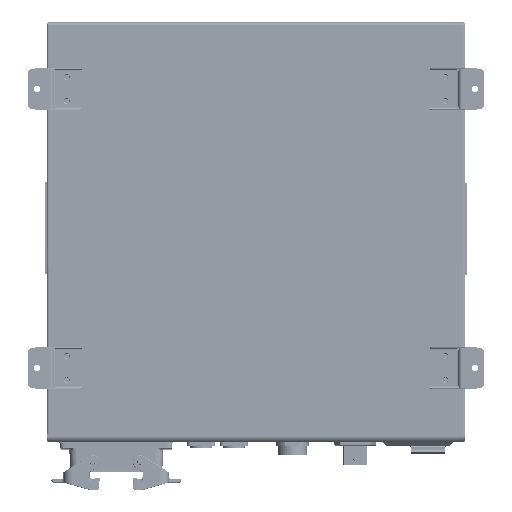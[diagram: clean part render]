
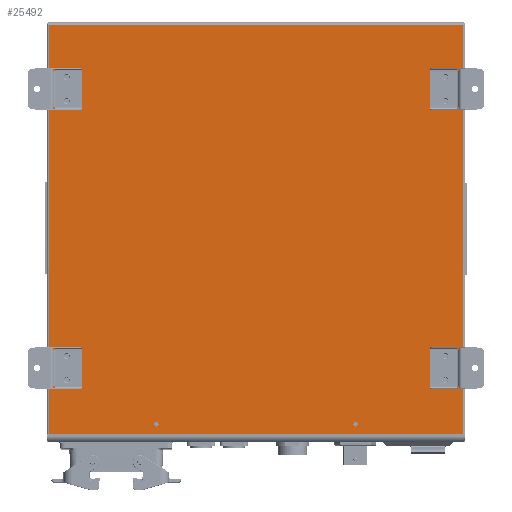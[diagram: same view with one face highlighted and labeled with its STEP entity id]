
A CAD part, left-side view. The second image highlights one B-rep face of the part: STEP entity #25492.
In plain terms, the highlighted planar face has unit normal (-1, 0, 0).
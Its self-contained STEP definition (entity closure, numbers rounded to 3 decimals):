
#5948=FACE_BOUND('',#76878,.T.);
#5949=FACE_BOUND('',#76879,.T.);
#5950=FACE_BOUND('',#76880,.T.);
#5951=FACE_BOUND('',#76881,.T.);
#5952=FACE_BOUND('',#76882,.T.);
#5953=FACE_BOUND('',#76883,.T.);
#5954=FACE_BOUND('',#76884,.T.);
#5955=FACE_BOUND('',#76885,.T.);
#5956=FACE_BOUND('',#76886,.T.);
#5957=FACE_BOUND('',#76887,.T.);
#5958=FACE_BOUND('',#76888,.T.);
#15673=CIRCLE('',#384269,2.25);
#15676=CIRCLE('',#384273,2.25);
#15677=CIRCLE('',#384275,4.375);
#15679=CIRCLE('',#384278,4.375);
#15682=CIRCLE('',#384282,4.375);
#15684=CIRCLE('',#384285,4.375);
#15685=CIRCLE('',#384287,4.375);
#15687=CIRCLE('',#384290,4.375);
#15690=CIRCLE('',#384294,4.375);
#15692=CIRCLE('',#384297,4.375);
#25492=ADVANCED_FACE('\X2\96F64EF651E04F554F53\X0\',(#5948,#5949,#5950,
#5951,#5952,#5953,#5954,#5955,#5956,#5957,#5958),#43363,.F.);
#43363=PLANE('',#384299);
#76878=EDGE_LOOP('',(#112721,#112722,#112723,#112724));
#76879=EDGE_LOOP('',(#112725));
#76880=EDGE_LOOP('',(#112726));
#76881=EDGE_LOOP('',(#112727));
#76882=EDGE_LOOP('',(#112728));
#76883=EDGE_LOOP('',(#112729));
#76884=EDGE_LOOP('',(#112730));
#76885=EDGE_LOOP('',(#112731));
#76886=EDGE_LOOP('',(#112732));
#76887=EDGE_LOOP('',(#112733));
#76888=EDGE_LOOP('',(#112734));
#112721=ORIENTED_EDGE('',*,*,#246560,.T.);
#112722=ORIENTED_EDGE('',*,*,#246562,.T.);
#112723=ORIENTED_EDGE('',*,*,#246451,.F.);
#112724=ORIENTED_EDGE('',*,*,#246559,.T.);
#112725=ORIENTED_EDGE('',*,*,#246567,.T.);
#112726=ORIENTED_EDGE('',*,*,#246564,.T.);
#112727=ORIENTED_EDGE('',*,*,#246568,.F.);
#112728=ORIENTED_EDGE('',*,*,#246570,.F.);
#112729=ORIENTED_EDGE('',*,*,#246573,.F.);
#112730=ORIENTED_EDGE('',*,*,#246575,.F.);
#112731=ORIENTED_EDGE('',*,*,#246576,.F.);
#112732=ORIENTED_EDGE('',*,*,#246578,.F.);
#112733=ORIENTED_EDGE('',*,*,#246581,.F.);
#112734=ORIENTED_EDGE('',*,*,#246583,.F.);
#208176=VERTEX_POINT('',#523641);
#208177=VERTEX_POINT('',#523643);
#208248=VERTEX_POINT('',#523856);
#208249=VERTEX_POINT('',#523860);
#208250=VERTEX_POINT('',#523868);
#208253=VERTEX_POINT('',#523875);
#208254=VERTEX_POINT('',#523878);
#208256=VERTEX_POINT('',#523883);
#208259=VERTEX_POINT('',#523890);
#208261=VERTEX_POINT('',#523895);
#208262=VERTEX_POINT('',#523898);
#208264=VERTEX_POINT('',#523903);
#208267=VERTEX_POINT('',#523910);
#208269=VERTEX_POINT('',#523915);
#246451=EDGE_CURVE('',#208176,#208177,#297940,.T.);
#246559=EDGE_CURVE('LINE',#208176,#208248,#297995,.T.);
#246560=EDGE_CURVE('LINE',#208248,#208249,#297996,.T.);
#246562=EDGE_CURVE('LINE',#208249,#208177,#297997,.T.);
#246564=EDGE_CURVE('GENERATED CIRCLE',#208250,#208250,#15673,.T.);
#246567=EDGE_CURVE('GENERATED CIRCLE',#208253,#208253,#15676,.T.);
#246568=EDGE_CURVE('GENERATED CIRCLE',#208254,#208254,#15677,.T.);
#246570=EDGE_CURVE('GENERATED CIRCLE',#208256,#208256,#15679,.T.);
#246573=EDGE_CURVE('GENERATED CIRCLE',#208259,#208259,#15682,.T.);
#246575=EDGE_CURVE('GENERATED CIRCLE',#208261,#208261,#15684,.T.);
#246576=EDGE_CURVE('GENERATED CIRCLE',#208262,#208262,#15685,.T.);
#246578=EDGE_CURVE('GENERATED CIRCLE',#208264,#208264,#15687,.T.);
#246581=EDGE_CURVE('GENERATED CIRCLE',#208267,#208267,#15690,.T.);
#246583=EDGE_CURVE('GENERATED CIRCLE',#208269,#208269,#15692,.T.);
#297940=LINE('',#523642,#341818);
#297995=LINE('',#523857,#341873);
#297996=LINE('',#523859,#341874);
#297997=LINE('',#523863,#341875);
#341818=VECTOR('',#423201,1.);
#341873=VECTOR('',#423432,1.);
#341874=VECTOR('',#423435,1.);
#341875=VECTOR('',#423440,1.);
#384269=AXIS2_PLACEMENT_3D('',#523867,#423446,#423447);
#384273=AXIS2_PLACEMENT_3D('',#523874,#423454,#423455);
#384275=AXIS2_PLACEMENT_3D('',#523877,#423458,#423459);
#384278=AXIS2_PLACEMENT_3D('',#523882,#423464,#423465);
#384282=AXIS2_PLACEMENT_3D('',#523889,#423472,#423473);
#384285=AXIS2_PLACEMENT_3D('',#523894,#423478,#423479);
#384287=AXIS2_PLACEMENT_3D('',#523897,#423482,#423483);
#384290=AXIS2_PLACEMENT_3D('',#523902,#423488,#423489);
#384294=AXIS2_PLACEMENT_3D('',#523909,#423496,#423497);
#384297=AXIS2_PLACEMENT_3D('',#523914,#423502,#423503);
#384299=AXIS2_PLACEMENT_3D('',#523917,#423506,#423507);
#423201=DIRECTION('',(0.,1.,0.));
#423432=DIRECTION('',(0.,0.,1.));
#423435=DIRECTION('',(0.,1.,0.));
#423440=DIRECTION('',(0.,0.,-1.));
#423446=DIRECTION('',(1.,0.,0.));
#423447=DIRECTION('',(0.,0.,-1.));
#423454=DIRECTION('',(1.,0.,0.));
#423455=DIRECTION('',(0.,0.,-1.));
#423458=DIRECTION('',(-1.,0.,0.));
#423459=DIRECTION('',(0.,0.,-1.));
#423464=DIRECTION('',(-1.,0.,0.));
#423465=DIRECTION('',(0.,0.,-1.));
#423472=DIRECTION('',(-1.,0.,0.));
#423473=DIRECTION('',(0.,0.,-1.));
#423478=DIRECTION('',(-1.,0.,0.));
#423479=DIRECTION('',(0.,0.,-1.));
#423482=DIRECTION('',(-1.,0.,0.));
#423483=DIRECTION('',(0.,0.,-1.));
#423488=DIRECTION('',(-1.,0.,0.));
#423489=DIRECTION('',(0.,0.,-1.));
#423496=DIRECTION('',(-1.,0.,0.));
#423497=DIRECTION('',(0.,0.,-1.));
#423502=DIRECTION('',(-1.,0.,0.));
#423503=DIRECTION('',(0.,0.,-1.));
#423506=DIRECTION('',(1.,0.,0.));
#423507=DIRECTION('',(0.,1.,0.));
#523641=CARTESIAN_POINT('',(-248.02,-809.9,-270.606));
#523642=CARTESIAN_POINT('',(-248.02,-809.9,-270.606));
#523643=CARTESIAN_POINT('',(-248.02,-394.1,-270.606));
#523856=CARTESIAN_POINT('',(-248.02,-809.9,139.494));
#523857=CARTESIAN_POINT('',(-248.02,-809.9,-67.906));
#523859=CARTESIAN_POINT('',(-248.02,-602.,139.494));
#523860=CARTESIAN_POINT('',(-248.02,-394.1,139.494));
#523863=CARTESIAN_POINT('',(-248.02,-394.1,-67.906));
#523867=CARTESIAN_POINT('',(-248.02,-702.,-261.047));
#523868=CARTESIAN_POINT('',(-248.02,-702.,-263.297));
#523874=CARTESIAN_POINT('',(-248.02,-502.,-261.047));
#523875=CARTESIAN_POINT('',(-248.02,-502.,-263.297));
#523877=CARTESIAN_POINT('',(-248.02,-412.,-192.506));
#523878=CARTESIAN_POINT('',(-248.02,-412.,-196.881));
#523882=CARTESIAN_POINT('',(-248.02,-412.,-216.506));
#523883=CARTESIAN_POINT('',(-248.02,-412.,-220.881));
#523889=CARTESIAN_POINT('',(-248.02,-792.,-192.506));
#523890=CARTESIAN_POINT('',(-248.02,-792.,-196.881));
#523894=CARTESIAN_POINT('',(-248.02,-792.,-216.506));
#523895=CARTESIAN_POINT('',(-248.02,-792.,-220.881));
#523897=CARTESIAN_POINT('',(-248.02,-412.,63.494));
#523898=CARTESIAN_POINT('',(-248.02,-412.,59.119));
#523902=CARTESIAN_POINT('',(-248.02,-412.,87.494));
#523903=CARTESIAN_POINT('',(-248.02,-412.,83.119));
#523909=CARTESIAN_POINT('',(-248.02,-792.,63.494));
#523910=CARTESIAN_POINT('',(-248.02,-792.,59.119));
#523914=CARTESIAN_POINT('',(-248.02,-792.,87.494));
#523915=CARTESIAN_POINT('',(-248.02,-792.,83.119));
#523917=CARTESIAN_POINT('',(-248.02,-602.,-64.506));
